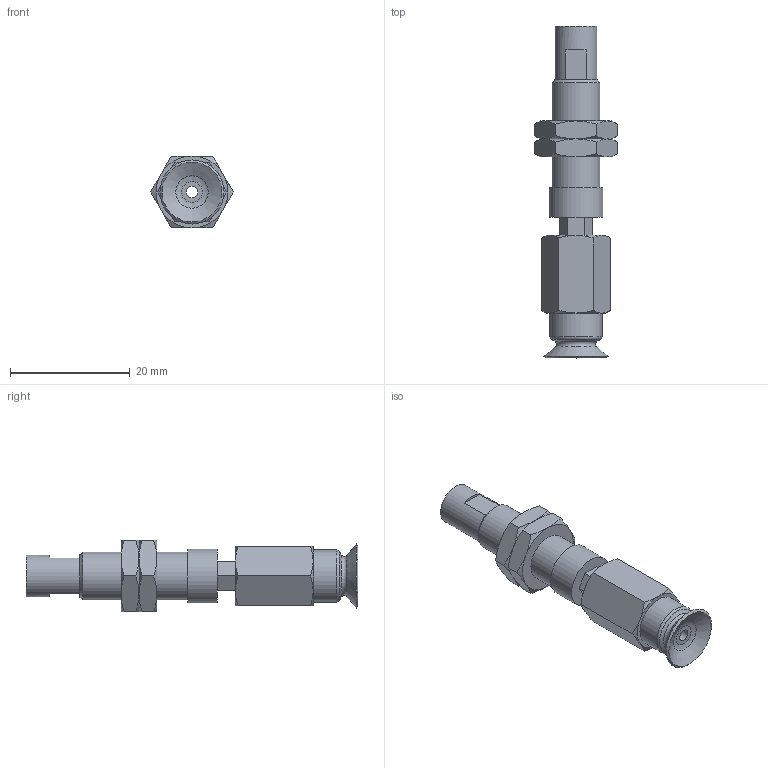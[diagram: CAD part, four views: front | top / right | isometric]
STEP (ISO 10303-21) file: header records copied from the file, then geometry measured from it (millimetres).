
FILE_DESCRIPTION(('STEP AP203'),'1');
FILE_NAME('.stp','2025-08-27T03:06:59',(' '),(' '),'Spatial InterOp 3D',' ',' ');
FILE_SCHEMA(('CONFIG_CONTROL_DESIGN'));
Length unit declared in the file: millimetre
Products named in the file (6): BNABPFTH-10A-3-※; ADAPTER; NAPATH-10A-3--M; Nut-10A-3-h; NAPFTH-10A-3-FBODY; BPFG-10A-※
Assembly tree (6 placements, depth 2):
  BNABPFTH-10A-3-※
    ADAPTER
    NAPATH-10A-3--M
    Nut-10A-3-h  x2
    NAPFTH-10A-3-FBODY
    BPFG-10A-※
Bounding box: 13.86 x 55.5 x 12 mm (x, y, z)
Volume: 3377.1 mm3; surface area: 3955.8 mm2
Topology: 6 solids, 6 shells, 123 faces, 264 edges, 161 vertices
Faces by surface type: plane 54, cone 46, cylinder 14, torus 8, bspline 1
Full cylindrical faces by diameter (mm): 2 x3, 4 x2, 4.134 x1, 6 x2, 7 x1, 7.188 x2, 8 x1, 8.7 x1, 9 x1
Entity records: 3003 total; most frequent: CARTESIAN_POINT 724, DIRECTION 412, ORIENTED_EDGE 354, AXIS2_PLACEMENT_3D 177, EDGE_CURVE 177, EDGE_LOOP 148, VERTEX_POINT 125, FACE_OUTER_BOUND 122
